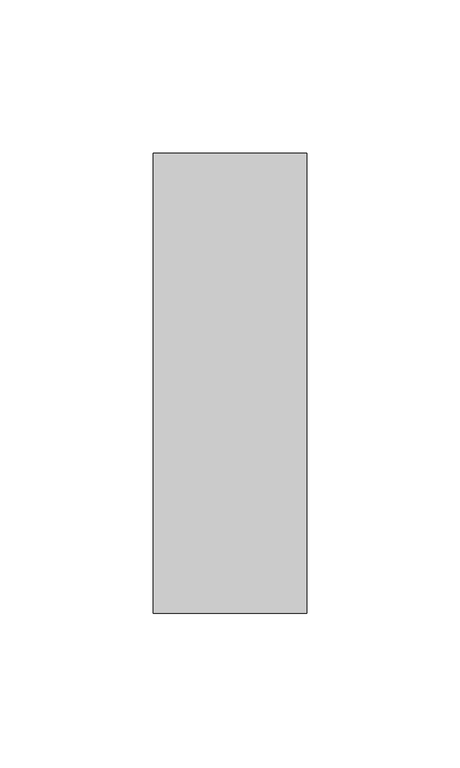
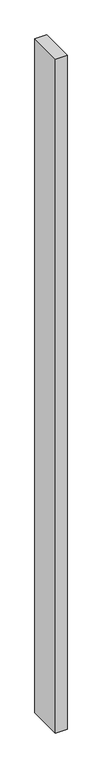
"""IFC4 building model written with IfcOpenShell, lengths in millimetres: member geometry, Прямоугольный импост : 50 мм x 150 мм."""

from ifc_helpers import new_model, si_unit, frame, origin, place, context, project, spatial, polyline, outline, extrude, source, transform, mapped, element, save


def member_c1569bdb(model_context):
    return source(origin(), model_context, "Body", "SweptSolid", [
        extrude(outline(polyline([(25.0, 75.0), (25.0, -75.0), (-25.0, -75.0), (-25.0, 75.0), (25.0, 75.0)])), frame((0.0, 0.0, -3025.0), z_axis=(0.0, 0.0, 1.0), x_axis=(1.0, 0.0, 0.0)), (0.0, 0.0, 1.0), 3025.0),
    ])


if __name__ == "__main__":
    model = new_model("IFC4")
    model_context = context("Model", 3, world=origin())
    ifc_project = project(units=[si_unit("LENGTHUNIT", "METRE", prefix="MILLI")], contexts=[model_context])
    site = spatial("IfcSite", under=ifc_project)
    building = spatial("IfcBuilding", under=site)
    placement = place(None, origin())
    member_shape = member_c1569bdb(model_context)
    element("IfcMember", 1, ObjectType="Прямоугольный импост : 50 мм x 150 мм", at=placement, inside=building, context=model_context, shape_type="MappedRepresentation", body=[
        mapped(member_shape, transform((0.0, 0.0, 0.0), x_axis=(1.0, 0.0, 0.0), y_axis=(0.0, 1.0, 0.0), z_axis=(0.0, 0.0, 1.0))),
    ])
    save(model, "model.ifc")
